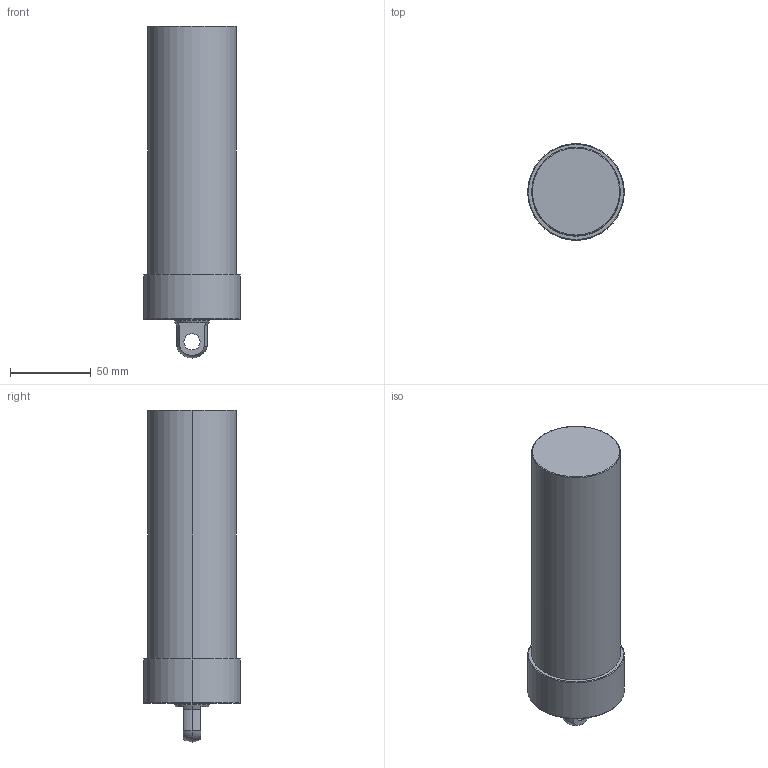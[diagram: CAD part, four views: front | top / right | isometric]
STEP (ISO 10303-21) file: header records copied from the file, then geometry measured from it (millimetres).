
FILE_DESCRIPTION (( 'STEP AP203' ), '1' );
FILE_NAME ('CLLU-055GP-125.STEP', '2020-01-06T07:45:05', ( '' ), ( '' ), 'SwSTEP 2.0', 'SolidWorks 2015', '' );
FILE_SCHEMA (( 'CONFIG_CONTROL_DESIGN' ));
Length unit declared in the file: millimetre
Products named in the file (1): CLLU-055GP-125
Bounding box: 60 x 60 x 206 mm (x, y, z)
Volume: 447275.1 mm3; surface area: 39863 mm2
Topology: 1 solids, 1 shells, 58 faces, 131 edges, 75 vertices
Faces by surface type: cylinder 23, cone 18, plane 9, torus 6, sphere 2
Entity records: 1658 total; most frequent: DIRECTION 311, CARTESIAN_POINT 269, ORIENTED_EDGE 246, AXIS2_PLACEMENT_3D 133, EDGE_CURVE 123, VERTEX_POINT 75, CIRCLE 74, EDGE_LOOP 68
